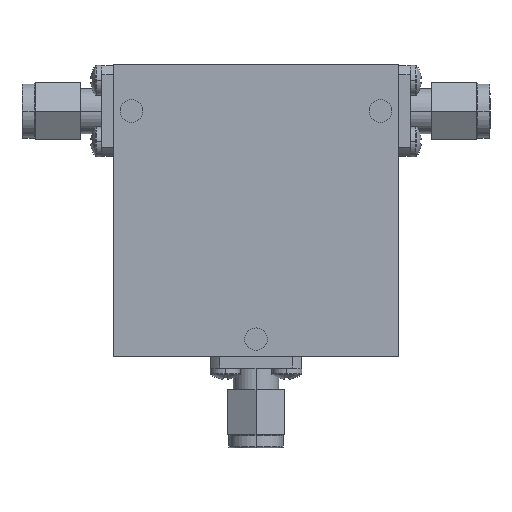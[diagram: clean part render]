
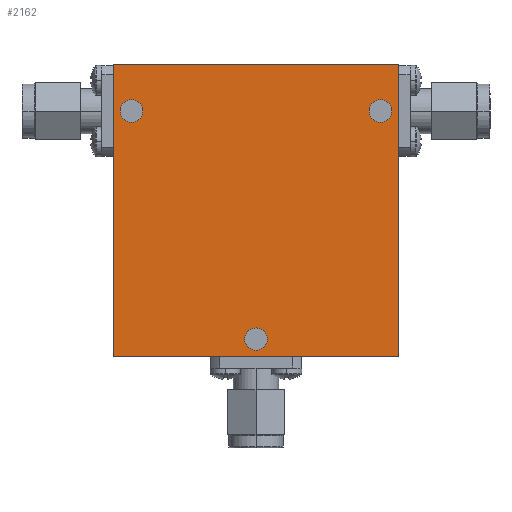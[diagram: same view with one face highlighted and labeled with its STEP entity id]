
A CAD part, top view. The second image highlights one B-rep face of the part: STEP entity #2162.
In plain terms, the highlighted planar face has unit normal (0, 0, 1) as drawn and (0, 0, -1) by its records, which use the part's own axes.
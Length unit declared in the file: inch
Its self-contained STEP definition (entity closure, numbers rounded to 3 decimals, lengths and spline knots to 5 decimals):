
#20 = DIRECTION ( 'NONE',  ( 1., 0., 0. ) ) ;
#34 = CARTESIAN_POINT ( 'NONE',  ( 0.7525, 0.55, -0.365 ) ) ;
#115 = FACE_BOUND ( 'NONE', #765, .T. ) ;
#179 = ORIENTED_EDGE ( 'NONE', *, *, #210, .T. ) ;
#195 = EDGE_LOOP ( 'NONE', ( #243, #684 ) ) ;
#197 = EDGE_LOOP ( 'NONE', ( #179, #2576 ) ) ;
#203 = LINE ( 'NONE', #1000, #2146 ) ;
#210 = EDGE_CURVE ( 'NONE', #3268, #1628, #1896, .T. ) ;
#211 = AXIS2_PLACEMENT_3D ( 'NONE', #2143, #2174, #2917 ) ;
#233 = CARTESIAN_POINT ( 'NONE',  ( 0.69, 0.55, -0.365 ) ) ;
#243 = ORIENTED_EDGE ( 'NONE', *, *, #1924, .T. ) ;
#259 = DIRECTION ( 'NONE',  ( 0., 1., 0. ) ) ;
#303 = LINE ( 'NONE', #2087, #2508 ) ;
#451 = PLANE ( 'NONE',  #551 ) ;
#464 = VERTEX_POINT ( 'NONE', #1883 ) ;
#489 = DIRECTION ( 'NONE',  ( 0., 0., 1. ) ) ;
#498 = DIRECTION ( 'NONE',  ( 1., 0., 0. ) ) ;
#539 = DIRECTION ( 'NONE',  ( 0., 0., 1. ) ) ;
#551 = AXIS2_PLACEMENT_3D ( 'NONE', #718, #2483, #1445 ) ;
#587 = CARTESIAN_POINT ( 'NONE',  ( -0.6275, 0.55, -0.365 ) ) ;
#664 = VERTEX_POINT ( 'NONE', #710 ) ;
#684 = ORIENTED_EDGE ( 'NONE', *, *, #2607, .T. ) ;
#710 = CARTESIAN_POINT ( 'NONE',  ( 0.79, -0.81, -0.365 ) ) ;
#718 = CARTESIAN_POINT ( 'NONE',  ( 0., 0., -0.365 ) ) ;
#742 = AXIS2_PLACEMENT_3D ( 'NONE', #233, #489, #2812 ) ;
#744 = CARTESIAN_POINT ( 'NONE',  ( -0.0625, -0.715, -0.365 ) ) ;
#765 = EDGE_LOOP ( 'NONE', ( #1140, #2203 ) ) ;
#778 = DIRECTION ( 'NONE',  ( 0., -1., 0. ) ) ;
#826 = DIRECTION ( 'NONE',  ( 1., 0., 0. ) ) ;
#928 = CARTESIAN_POINT ( 'NONE',  ( -0.79, -0.81, -0.365 ) ) ;
#937 = CARTESIAN_POINT ( 'NONE',  ( -0.7525, 0.55, -0.365 ) ) ;
#951 = DIRECTION ( 'NONE',  ( 1., 0., 0. ) ) ;
#978 = CARTESIAN_POINT ( 'NONE',  ( -0.69, 0.55, -0.365 ) ) ;
#990 = DIRECTION ( 'NONE',  ( -1., 0., 0. ) ) ;
#995 = CARTESIAN_POINT ( 'NONE',  ( 0., -0.715, -0.365 ) ) ;
#1000 = CARTESIAN_POINT ( 'NONE',  ( -0.79, 0.81, -0.365 ) ) ;
#1121 = VERTEX_POINT ( 'NONE', #744 ) ;
#1140 = ORIENTED_EDGE ( 'NONE', *, *, #1796, .T. ) ;
#1211 = FACE_OUTER_BOUND ( 'NONE', #2181, .T. ) ;
#1271 = AXIS2_PLACEMENT_3D ( 'NONE', #995, #2013, #3310 ) ;
#1393 = CIRCLE ( 'NONE', #211, 0.0625 ) ;
#1445 = DIRECTION ( 'NONE',  ( 1., 0., 0. ) ) ;
#1623 = CIRCLE ( 'NONE', #3214, 0.0625 ) ;
#1625 = CIRCLE ( 'NONE', #1271, 0.0625 ) ;
#1628 = VERTEX_POINT ( 'NONE', #2735 ) ;
#1649 = ORIENTED_EDGE ( 'NONE', *, *, #3312, .F. ) ;
#1678 = DIRECTION ( 'NONE',  ( 0., 0., 1. ) ) ;
#1737 = EDGE_CURVE ( 'NONE', #464, #2023, #203, .T. ) ;
#1762 = CARTESIAN_POINT ( 'NONE',  ( 0.0625, -0.715, -0.365 ) ) ;
#1778 = CARTESIAN_POINT ( 'NONE',  ( -0.79, -0.81, -0.365 ) ) ;
#1796 = EDGE_CURVE ( 'NONE', #2887, #3120, #1950, .T. ) ;
#1883 = CARTESIAN_POINT ( 'NONE',  ( 0.79, 0.81, -0.365 ) ) ;
#1896 = CIRCLE ( 'NONE', #742, 0.0625 ) ;
#1924 = EDGE_CURVE ( 'NONE', #2382, #1121, #3042, .T. ) ;
#1950 = CIRCLE ( 'NONE', #3188, 0.0625 ) ;
#1966 = ORIENTED_EDGE ( 'NONE', *, *, #3187, .F. ) ;
#2013 = DIRECTION ( 'NONE',  ( 0., 0., 1. ) ) ;
#2020 = ORIENTED_EDGE ( 'NONE', *, *, #2724, .F. ) ;
#2023 = VERTEX_POINT ( 'NONE', #3152 ) ;
#2058 = FACE_BOUND ( 'NONE', #197, .T. ) ;
#2087 = CARTESIAN_POINT ( 'NONE',  ( -0.79, 0.81, -0.365 ) ) ;
#2092 = CARTESIAN_POINT ( 'NONE',  ( 0., -0.715, -0.365 ) ) ;
#2143 = CARTESIAN_POINT ( 'NONE',  ( 0.69, 0.55, -0.365 ) ) ;
#2144 = EDGE_CURVE ( 'NONE', #1628, #3268, #1393, .T. ) ;
#2146 = VECTOR ( 'NONE', #990, 39.37008 ) ;
#2162 = ADVANCED_FACE ( 'NONE', ( #2058, #2510, #115, #1211 ), #451, .F. ) ;
#2174 = DIRECTION ( 'NONE',  ( 0., 0., 1. ) ) ;
#2180 = VECTOR ( 'NONE', #259, 39.37008 ) ;
#2181 = EDGE_LOOP ( 'NONE', ( #2020, #1966, #1649, #2224 ) ) ;
#2202 = VECTOR ( 'NONE', #498, 39.37008 ) ;
#2203 = ORIENTED_EDGE ( 'NONE', *, *, #2986, .T. ) ;
#2221 = VERTEX_POINT ( 'NONE', #928 ) ;
#2224 = ORIENTED_EDGE ( 'NONE', *, *, #1737, .F. ) ;
#2294 = CARTESIAN_POINT ( 'NONE',  ( -0.69, 0.55, -0.365 ) ) ;
#2350 = DIRECTION ( 'NONE',  ( 0., 0., 1. ) ) ;
#2382 = VERTEX_POINT ( 'NONE', #1762 ) ;
#2483 = DIRECTION ( 'NONE',  ( 0., 0., 1. ) ) ;
#2508 = VECTOR ( 'NONE', #778, 39.37008 ) ;
#2510 = FACE_BOUND ( 'NONE', #195, .T. ) ;
#2576 = ORIENTED_EDGE ( 'NONE', *, *, #2144, .T. ) ;
#2607 = EDGE_CURVE ( 'NONE', #1121, #2382, #1625, .T. ) ;
#2724 = EDGE_CURVE ( 'NONE', #664, #464, #2869, .T. ) ;
#2735 = CARTESIAN_POINT ( 'NONE',  ( 0.6275, 0.55, -0.365 ) ) ;
#2812 = DIRECTION ( 'NONE',  ( 1., 0., 0. ) ) ;
#2815 = CARTESIAN_POINT ( 'NONE',  ( 0.79, 0.81, -0.365 ) ) ;
#2841 = AXIS2_PLACEMENT_3D ( 'NONE', #2092, #2350, #826 ) ;
#2869 = LINE ( 'NONE', #2815, #2180 ) ;
#2887 = VERTEX_POINT ( 'NONE', #587 ) ;
#2917 = DIRECTION ( 'NONE',  ( 1., 0., 0. ) ) ;
#2986 = EDGE_CURVE ( 'NONE', #3120, #2887, #1623, .T. ) ;
#3042 = CIRCLE ( 'NONE', #2841, 0.0625 ) ;
#3120 = VERTEX_POINT ( 'NONE', #937 ) ;
#3150 = LINE ( 'NONE', #1778, #2202 ) ;
#3152 = CARTESIAN_POINT ( 'NONE',  ( -0.79, 0.81, -0.365 ) ) ;
#3187 = EDGE_CURVE ( 'NONE', #2221, #664, #3150, .T. ) ;
#3188 = AXIS2_PLACEMENT_3D ( 'NONE', #2294, #539, #20 ) ;
#3214 = AXIS2_PLACEMENT_3D ( 'NONE', #978, #1678, #951 ) ;
#3268 = VERTEX_POINT ( 'NONE', #34 ) ;
#3310 = DIRECTION ( 'NONE',  ( 1., 0., 0. ) ) ;
#3312 = EDGE_CURVE ( 'NONE', #2023, #2221, #303, .T. ) ;
